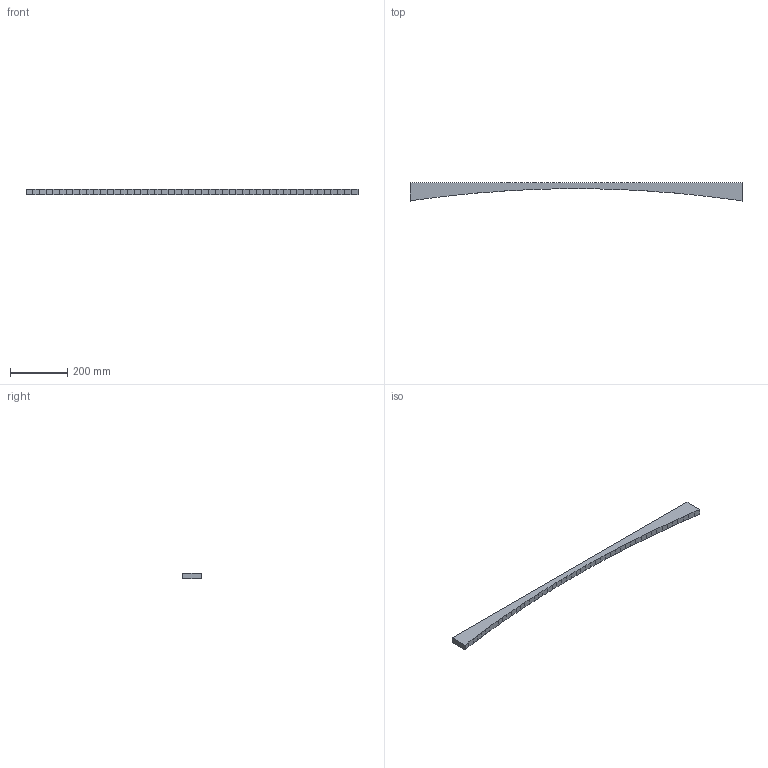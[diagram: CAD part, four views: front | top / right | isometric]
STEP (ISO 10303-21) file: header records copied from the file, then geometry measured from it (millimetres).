
FILE_DESCRIPTION(/* description */ (''),/* implementation_level */ '2;1');
FILE_NAME(/* name */ 'plancheincurvee',/* time_stamp */ '2019-11-27T11:32:11+01:00',/* author */ (''),/* organization */ (''),/* preprocessor_version */ 'ST-DEVELOPER v8',/* originating_system */ '',/* authorisation */ '');
FILE_SCHEMA (('CONFIG_CONTROL_DESIGN'));
Length unit declared in the file: millimetre
Products named in the file (1): 2
Bounding box: 1159 x 63 x 20 mm (x, y, z)
Volume: 801220 mm3; surface area: 129090.1 mm2
Topology: 1 solids, 1 shells, 54 faces, 208 edges, 104 vertices
Faces by surface type: bspline 54
Entity records: 1874 total; most frequent: CARTESIAN_POINT 684, ORIENTED_EDGE 312, EDGE_CURVE 156, B_SPLINE_CURVE_WITH_KNOTS 156, VERTEX_POINT 104, ADVANCED_FACE 54, FACE_OUTER_BOUND 54, EDGE_LOOP 54
